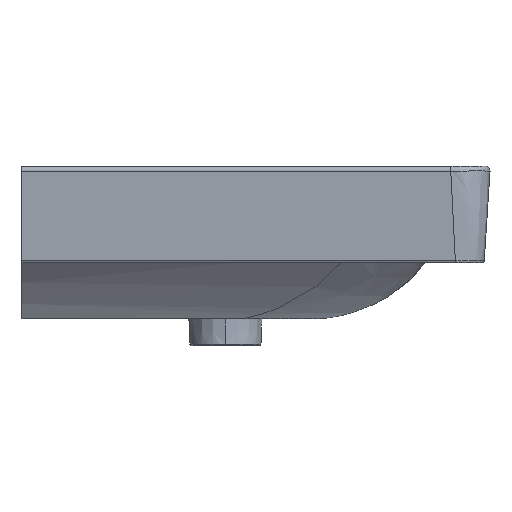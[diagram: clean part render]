
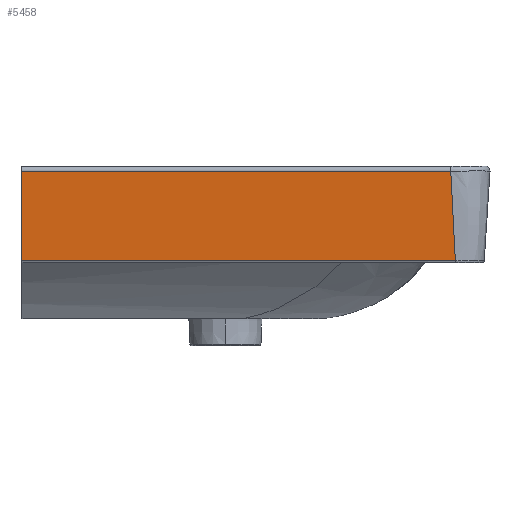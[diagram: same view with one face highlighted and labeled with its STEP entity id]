
A CAD part, front view. The second image highlights one B-rep face of the part: STEP entity #5458.
In plain terms, the highlighted free-form (B-spline) face has degree [5, 1] with [6, 2] control points.
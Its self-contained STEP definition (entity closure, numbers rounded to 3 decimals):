
#4759=CARTESIAN_POINT('Vertex',(226.248,-519.708,36.761)) ;
#5376=CARTESIAN_POINT('Line Origine',(27.483,-519.708,36.761)) ;
#5380=CARTESIAN_POINT('Vertex',(-200.,-519.708,36.761)) ;
#5413=CARTESIAN_POINT('Control Point',(-200.,-525.438,130.)) ;
#5414=CARTESIAN_POINT('Control Point',(221.296,-525.438,130.)) ;
#5415=CARTESIAN_POINT('Control Point',(-200.,-525.382,110.961)) ;
#5416=CARTESIAN_POINT('Control Point',(223.221,-525.382,110.961)) ;
#5417=CARTESIAN_POINT('Control Point',(-200.,-524.759,91.922)) ;
#5418=CARTESIAN_POINT('Control Point',(224.692,-524.759,91.922)) ;
#5419=CARTESIAN_POINT('Control Point',(-200.,-523.57,72.924)) ;
#5420=CARTESIAN_POINT('Control Point',(225.694,-523.57,72.924)) ;
#5421=CARTESIAN_POINT('Control Point',(-200.,-521.819,53.962)) ;
#5422=CARTESIAN_POINT('Control Point',(226.22,-521.819,53.962)) ;
#5423=CARTESIAN_POINT('Control Point',(-200.,-519.494,35.)) ;
#5424=CARTESIAN_POINT('Control Point',(226.253,-519.494,35.)) ;
#5426=CARTESIAN_POINT('Control Point',(221.793,-525.407,124.954)) ;
#5427=CARTESIAN_POINT('Control Point',(223.491,-525.243,107.278)) ;
#5428=CARTESIAN_POINT('Control Point',(224.796,-524.591,89.608)) ;
#5429=CARTESIAN_POINT('Control Point',(225.695,-523.452,71.972)) ;
#5430=CARTESIAN_POINT('Control Point',(226.183,-521.827,54.366)) ;
#5431=CARTESIAN_POINT('Control Point',(226.248,-519.708,36.761)) ;
#5432=CARTESIAN_POINT('Vertex',(221.793,-525.407,124.954)) ;
#5436=CARTESIAN_POINT('Control Point',(-200.,-525.407,124.954)) ;
#5437=CARTESIAN_POINT('Control Point',(-115.641,-525.407,124.954)) ;
#5438=CARTESIAN_POINT('Control Point',(-31.283,-525.407,124.954)) ;
#5439=CARTESIAN_POINT('Control Point',(53.076,-525.407,124.954)) ;
#5440=CARTESIAN_POINT('Control Point',(137.435,-525.407,124.954)) ;
#5441=CARTESIAN_POINT('Control Point',(221.793,-525.407,124.954)) ;
#5442=CARTESIAN_POINT('Vertex',(-200.,-525.407,124.954)) ;
#5446=CARTESIAN_POINT('Control Point',(-200.,-525.407,124.954)) ;
#5447=CARTESIAN_POINT('Control Point',(-200.,-525.202,102.854)) ;
#5448=CARTESIAN_POINT('Control Point',(-200.,-524.183,80.764)) ;
#5449=CARTESIAN_POINT('Control Point',(-200.,-522.354,58.738)) ;
#5450=CARTESIAN_POINT('Control Point',(-200.,-519.708,36.761)) ;
#5377=DIRECTION('Vector Direction',(-1.,0.,0.)) ;
#5453=ORIENTED_EDGE('',*,*,#5434,.F.) ;
#5454=ORIENTED_EDGE('',*,*,#5444,.T.) ;
#5455=ORIENTED_EDGE('',*,*,#5451,.F.) ;
#5456=ORIENTED_EDGE('',*,*,#5382,.F.) ;
#5378=VECTOR('Line Direction',#5377,1.) ;
#5458=ADVANCED_FACE('Hauptk\X2\00F6\X0\rper',(#5457),#5412,.T.) ;
#5425=B_SPLINE_CURVE_WITH_KNOTS('',5,(#5426,#5427,#5428,#5429,#5430,#5431),.UNSPECIFIED.,.F.,.U.,(6,6),(5.062,93.725),.UNSPECIFIED.) ;
#5435=B_SPLINE_CURVE_WITH_KNOTS('',5,(#5436,#5437,#5438,#5439,#5440,#5441),.UNSPECIFIED.,.F.,.U.,(6,6),(-221.296,200.),.UNSPECIFIED.) ;
#5445=B_SPLINE_CURVE_WITH_KNOTS('',4,(#5446,#5447,#5448,#5449,#5450),.UNSPECIFIED.,.F.,.U.,(5,5),(7.148,132.366),.UNSPECIFIED.) ;
#5412=B_SPLINE_SURFACE_WITH_KNOTS('',5,1,((#5413,#5414),(#5415,#5416),(#5417,#5418),(#5419,#5420),(#5421,#5422),(#5423,#5424)),.UNSPECIFIED.,.F.,.F.,.U.,(6,6),(2,2),(0.,95.499),(-221.296,200.),.UNSPECIFIED.) ;
#5382=EDGE_CURVE('',#4760,#5381,#5379,.T.) ;
#5434=EDGE_CURVE('',#5433,#4760,#5425,.T.) ;
#5444=EDGE_CURVE('',#5433,#5443,#5435,.F.) ;
#5451=EDGE_CURVE('',#5381,#5443,#5445,.F.) ;
#5452=EDGE_LOOP('',(#5453,#5454,#5455,#5456)) ;
#5457=FACE_OUTER_BOUND('',#5452,.T.) ;
#5379=LINE('Line',#5376,#5378) ;
#4760=VERTEX_POINT('',#4759) ;
#5381=VERTEX_POINT('',#5380) ;
#5433=VERTEX_POINT('',#5432) ;
#5443=VERTEX_POINT('',#5442) ;
